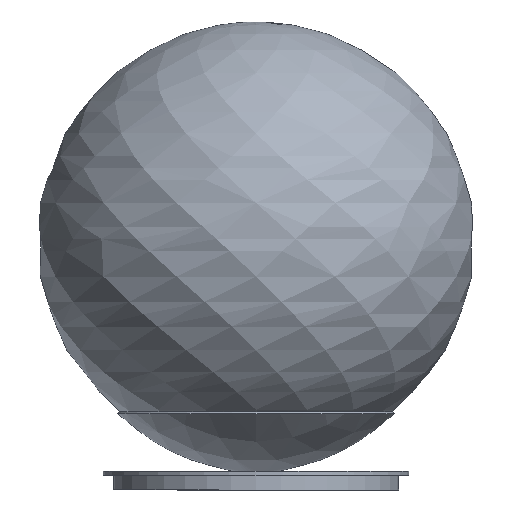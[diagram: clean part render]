
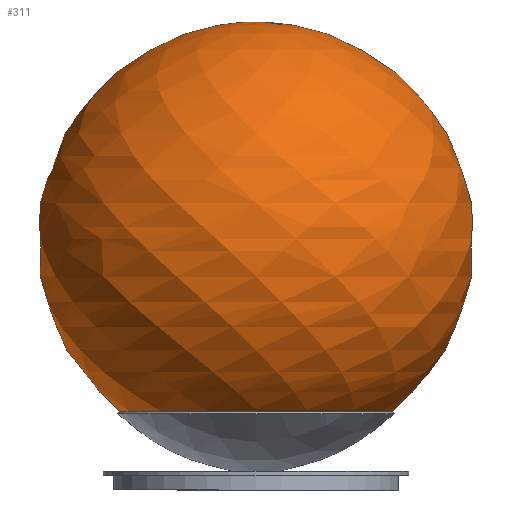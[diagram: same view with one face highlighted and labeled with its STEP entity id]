
A CAD part, front view. The second image highlights one B-rep face of the part: STEP entity #311.
In plain terms, the highlighted free-form (B-spline) face has degree [2, 2] with [5, 9] control points.
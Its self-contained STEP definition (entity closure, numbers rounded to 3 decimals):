
#13=(
BOUNDED_SURFACE()
B_SPLINE_SURFACE(2,2,((#545,#546,#547,#548,#549,#550,#551,#552,#553),(#554,
#555,#556,#557,#558,#559,#560,#561,#562),(#563,#564,#565,#566,#567,#568,
#569,#570,#571),(#572,#573,#574,#575,#576,#577,#578,#579,#580),(#581,#582,
#583,#584,#585,#586,#587,#588,#589)),.UNSPECIFIED.,.F.,.T.,.F.)
B_SPLINE_SURFACE_WITH_KNOTS((3,2,3),(3,2,2,2,3),(-1.227,0.173,
1.572),(-3.142,-1.571,0.,1.571,
3.142),.UNSPECIFIED.)
GEOMETRIC_REPRESENTATION_ITEM()
RATIONAL_B_SPLINE_SURFACE(((1.,0.707,1.,0.707,1.,
0.707,1.,0.707,1.),(0.765,0.541,
0.765,0.541,0.765,0.541,0.765,
0.541,0.765),(1.,0.707,1.,0.707,
1.,0.707,1.,0.707,1.),(0.765,0.541,
0.765,0.541,0.765,0.541,0.765,
0.541,0.765),(1.,0.707,1.,0.707,
1.,0.707,1.,0.707,1.)))
REPRESENTATION_ITEM('')
SURFACE()
);
#50=FACE_OUTER_BOUND('',#73,.T.);
#73=EDGE_LOOP('',(#258,#259,#260));
#132=CIRCLE('',#370,25.378);
#134=CIRCLE('',#372,75.);
#158=VERTEX_POINT('',#542);
#159=VERTEX_POINT('',#590);
#193=EDGE_CURVE('',#158,#158,#132,.T.);
#195=EDGE_CURVE('',#159,#158,#134,.T.);
#258=ORIENTED_EDGE('',*,*,#195,.T.);
#259=ORIENTED_EDGE('',*,*,#193,.T.);
#260=ORIENTED_EDGE('',*,*,#195,.F.);
#311=ADVANCED_FACE('',(#50),#13,.F.);
#370=AXIS2_PLACEMENT_3D('',#543,#448,#449);
#372=AXIS2_PLACEMENT_3D('',#591,#452,#453);
#448=DIRECTION('center_axis',(0.,0.,
1.));
#449=DIRECTION('ref_axis',(1.,0.,0.));
#452=DIRECTION('center_axis',(-1.,0.,0.));
#453=DIRECTION('ref_axis',(0.,1.,0.));
#542=CARTESIAN_POINT('',(0.,25.378,15.119));
#543=CARTESIAN_POINT('Origin',(0.,0.,
15.119));
#545=CARTESIAN_POINT('Ctrl Pts',(0.,25.378,
15.119));
#546=CARTESIAN_POINT('Ctrl Pts',(-25.378,25.378,15.119));
#547=CARTESIAN_POINT('Ctrl Pts',(-25.378,0.,
15.119));
#548=CARTESIAN_POINT('Ctrl Pts',(-25.378,-25.378,15.119));
#549=CARTESIAN_POINT('Ctrl Pts',(0.,-25.378,
15.119));
#550=CARTESIAN_POINT('Ctrl Pts',(25.378,-25.378,15.119));
#551=CARTESIAN_POINT('Ctrl Pts',(25.378,0.,
15.119));
#552=CARTESIAN_POINT('Ctrl Pts',(25.378,25.378,15.119));
#553=CARTESIAN_POINT('Ctrl Pts',(0.,25.378,
15.119));
#554=CARTESIAN_POINT('Ctrl Pts',(0.,84.84,
36.396));
#555=CARTESIAN_POINT('Ctrl Pts',(-84.84,84.84,36.396));
#556=CARTESIAN_POINT('Ctrl Pts',(-84.84,0.,
36.396));
#557=CARTESIAN_POINT('Ctrl Pts',(-84.84,-84.84,36.396));
#558=CARTESIAN_POINT('Ctrl Pts',(0.,-84.84,
36.396));
#559=CARTESIAN_POINT('Ctrl Pts',(84.84,-84.84,36.396));
#560=CARTESIAN_POINT('Ctrl Pts',(84.84,0.,
36.396));
#561=CARTESIAN_POINT('Ctrl Pts',(84.84,84.84,36.396));
#562=CARTESIAN_POINT('Ctrl Pts',(0.,84.84,
36.396));
#563=CARTESIAN_POINT('Ctrl Pts',(0.,73.997,
98.612));
#564=CARTESIAN_POINT('Ctrl Pts',(-73.997,73.997,98.612));
#565=CARTESIAN_POINT('Ctrl Pts',(-73.997,0.,
98.612));
#566=CARTESIAN_POINT('Ctrl Pts',(-73.997,-73.997,98.612));
#567=CARTESIAN_POINT('Ctrl Pts',(0.,-73.997,
98.612));
#568=CARTESIAN_POINT('Ctrl Pts',(73.997,-73.997,98.612));
#569=CARTESIAN_POINT('Ctrl Pts',(73.997,0.,
98.612));
#570=CARTESIAN_POINT('Ctrl Pts',(73.997,73.997,98.612));
#571=CARTESIAN_POINT('Ctrl Pts',(0.,73.997,
98.612));
#572=CARTESIAN_POINT('Ctrl Pts',(0.,63.154,160.828));
#573=CARTESIAN_POINT('Ctrl Pts',(-63.154,63.154,160.828));
#574=CARTESIAN_POINT('Ctrl Pts',(-63.154,0.,
160.828));
#575=CARTESIAN_POINT('Ctrl Pts',(-63.154,-63.154,160.828));
#576=CARTESIAN_POINT('Ctrl Pts',(0.,-63.154,160.828));
#577=CARTESIAN_POINT('Ctrl Pts',(63.154,-63.154,160.828));
#578=CARTESIAN_POINT('Ctrl Pts',(63.154,0.,160.828));
#579=CARTESIAN_POINT('Ctrl Pts',(63.154,63.154,160.828));
#580=CARTESIAN_POINT('Ctrl Pts',(0.,63.154,160.828));
#581=CARTESIAN_POINT('Ctrl Pts',(0.,0.,
160.735));
#582=CARTESIAN_POINT('Ctrl Pts',(0.,0.,
160.735));
#583=CARTESIAN_POINT('Ctrl Pts',(0.,0.,
160.735));
#584=CARTESIAN_POINT('Ctrl Pts',(0.,0.,
160.735));
#585=CARTESIAN_POINT('Ctrl Pts',(0.,0.,
160.735));
#586=CARTESIAN_POINT('Ctrl Pts',(0.,0.,
160.735));
#587=CARTESIAN_POINT('Ctrl Pts',(0.,0.,
160.735));
#588=CARTESIAN_POINT('Ctrl Pts',(0.,0.,
160.735));
#589=CARTESIAN_POINT('Ctrl Pts',(0.,0.,
160.735));
#590=CARTESIAN_POINT('',(0.,0.,160.735));
#591=CARTESIAN_POINT('Origin',(0.,0.111,85.735));
